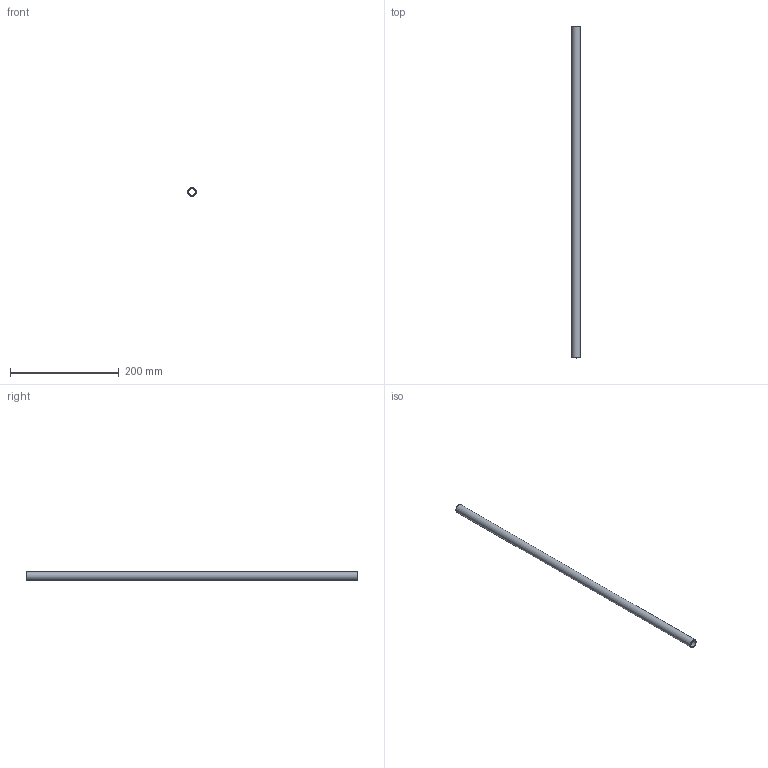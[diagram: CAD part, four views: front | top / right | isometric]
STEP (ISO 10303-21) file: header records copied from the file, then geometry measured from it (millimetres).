
FILE_DESCRIPTION(/* description */ (''),/* implementation_level */ '2;1');
FILE_NAME(/* name */ 'C:/Users/drich/Desktop/625T-24 v1.step',/* time_stamp */ '2019-12-27T17:34:30-06:00',/* author */ (''),/* organization */ (''),/* preprocessor_version */ 'ST-DEVELOPER v18',/* originating_system */ 'Autodesk Translation Framework v8.12.0.6',/* authorisation */ '');
FILE_SCHEMA (('AUTOMOTIVE_DESIGN { 1 0 10303 214 3 1 1 }'));
Length unit declared in the file: inch
Products named in the file (1): 625T-24
Bounding box: 15.73 x 609.6 x 15.73 mm (x, y, z)
Volume: 42760.6 mm3; surface area: 54303.1 mm2
Topology: 1 solids, 1 shells, 6 faces, 14 edges, 10 vertices
Faces by surface type: cone 2, cylinder 2, plane 2
Full cylindrical faces by diameter (mm): 12.573 x1, 15.73 x1
Entity records: 230 total; most frequent: DIRECTION 38, CARTESIAN_POINT 31, ORIENTED_EDGE 28, AXIS2_PLACEMENT_3D 17, EDGE_CURVE 14, CIRCLE 10, VERTEX_POINT 10, EDGE_LOOP 8
